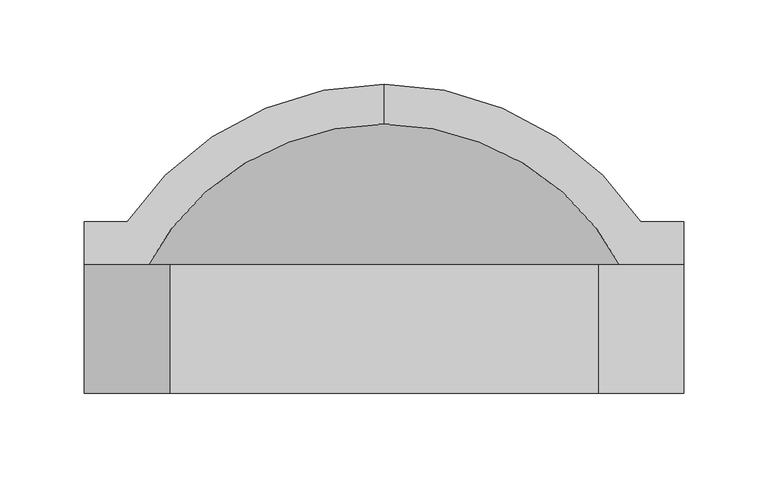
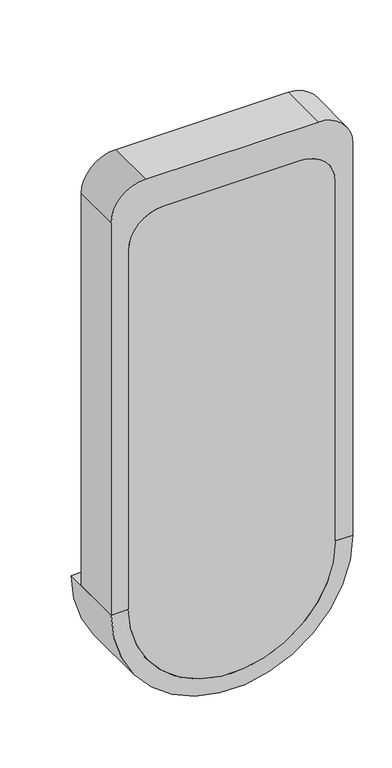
"""IFC4 building model written with IfcOpenShell, lengths in millimetres: flow terminal geometry, 小便斗 (2)-含牆 : 小便斗 (2)-含牆."""

from ifc_helpers import new_model, si_unit, point, frame, frame_2d, origin, place, context, project, spatial, polyline, circle_curve, ellipse_curve, trimmed, segment, composite_curve, outline, extrude, source, transform, mapped, element, save
from ifc_brep_helpers import plane_surface, cylinder_surface, revolved_surface, advanced_brep


def flow_terminal_5bd4dfce(model_context):
    return source(origin(), model_context, "Body", "SolidModel", [
        extrude(outline(composite_curve([segment(polyline([(610.0, 43.3254001), (610.0, 68.7254001), (1219.6, 68.7254001)]), True, "CONTINUOUS"), segment(trimmed(circle_curve(frame_2d((1219.6, 17.9254001)), 50.8), [point((1219.6, 68.7254001))], [point((1270.4, 17.9254001))], False, "CARTESIAN"), True, "CONTINUOUS"), segment(polyline([(1270.4, 17.9254001), (1270.4, -236.0745999)]), True, "CONTINUOUS"), segment(trimmed(circle_curve(frame_2d((1219.6, -236.0745999)), 50.8), [point((1270.4, -236.0745999))], [point((1219.6, -286.8745999))], False, "CARTESIAN"), True, "CONTINUOUS"), segment(polyline([(1219.6, -286.8745999), (610.0, -286.8745999), (610.0, -261.4745999), (1168.8, -261.4745999)]), True, "CONTINUOUS"), segment(trimmed(circle_curve(frame_2d((1168.8, -210.6745999)), 50.8), [point((1168.8, -261.4745999))], [point((1219.6, -210.6745999))], True, "CARTESIAN"), True, "CONTINUOUS"), segment(polyline([(1219.6, -210.6745999), (1219.6, -7.4745999)]), True, "CONTINUOUS"), segment(trimmed(circle_curve(frame_2d((1168.8, -7.4745999)), 50.8), [point((1219.6, -7.4745999))], [point((1168.8, 43.3254001))], True, "CARTESIAN"), True, "CONTINUOUS"), segment(polyline([(1168.8, 43.3254001), (610.0, 43.3254001)]), True, "CONTINUOUS")], self_intersect=False)), frame((0.0, 60.0, 0.0), z_axis=(0.0, 1.0, 0.0), x_axis=(0.0, 0.0, 1.0)), (0.0, 0.0, 1.0), 76.2),
        extrude(outline(composite_curve([segment(trimmed(circle_curve(frame_2d((1168.8, -7.4745999)), 50.8), [point((1168.8, 43.3254001))], [point((1219.6, -7.4745999))], False, "CARTESIAN"), True, "CONTINUOUS"), segment(polyline([(1219.6, -7.4745999), (1219.6, -210.6745999)]), True, "CONTINUOUS"), segment(trimmed(circle_curve(frame_2d((1168.8, -210.6745999)), 50.8), [point((1219.6, -210.6745999))], [point((1168.8, -261.4745999))], False, "CARTESIAN"), True, "CONTINUOUS"), segment(polyline([(1168.8, -261.4745999), (610.0, -261.4745999)]), True, "CONTINUOUS"), segment(trimmed(circle_curve(frame_2d((610.0, -109.0745999)), 152.4), [point((610.0, -261.4745999))], [point((610.0, 43.3254001))], False, "CARTESIAN"), True, "CONTINUOUS"), segment(polyline([(610.0, 43.3254001), (1168.8, 43.3254001)]), True, "CONTINUOUS")], self_intersect=False)), frame((0.0, 60.0, 0.0), z_axis=(0.0, 1.0, 0.0), x_axis=(0.0, 0.0, 1.0)), (0.0, 0.0, 1.0), 12.7),
        advanced_brep(
        [(-109.0745999, 243.1620048, 610.0), (-109.0745999, 219.4447043, 610.0), (43.3254001, 106.8706063, 610.0), (43.3254001, 60.0, 610.0), (68.7254001, 60.0, 610.0), (68.7254001, 161.6, 610.0), (43.3254001, 161.6, 610.0), (-261.4745999, 161.6, 610.0), (-286.8745999, 161.6, 610.0), (-286.8745999, 60.0, 610.0), (-261.4745999, 60.0, 610.0), (-261.4745999, 106.8706063, 610.0)],
        [
            (0, 1),
            (1, 2, circle_curve(frame((-109.0745999, 60.0, 610.0), z_axis=(0.0, 0.0, -1.0), x_axis=(1.0, 0.0, 0.0)), 159.4447043)),
            (2, 3),
            (3, 4),
            (4, 5),
            (5, 6),
            (6, 0, circle_curve(frame((-109.0745999, 60.0, 610.0), z_axis=(0.0, 0.0, 1.0), x_axis=(1.0, 0.0, 0.0)), 183.1620048)),
            (0, 7, circle_curve(frame((-109.0745999, 60.0, 610.0), z_axis=(0.0, 0.0, 1.0), x_axis=(-1.0, 0.0, 0.0)), 183.1620048)),
            (7, 8),
            (8, 9),
            (9, 10),
            (10, 11),
            (11, 1, circle_curve(frame((-109.0745999, 60.0, 610.0), z_axis=(0.0, 0.0, -1.0), x_axis=(-1.0, 0.0, 0.0)), 159.4447043)),
            (11, 2, circle_curve(frame((-109.0745999, 106.8706063, 610.0), z_axis=(0.0, -1.0, 0.0), x_axis=(1.0, 0.0, 0.0)), 152.4)),
            (10, 3, circle_curve(frame((-109.0745999, 60.0, 610.0), z_axis=(0.0, -1.0, 0.0), x_axis=(1.0, 0.0, 0.0)), 152.4)),
            (9, 4, circle_curve(frame((-109.0745999, 60.0, 610.0), z_axis=(0.0, -1.0, 0.0), x_axis=(1.0, 0.0, 0.0)), 177.8)),
            (8, 5, circle_curve(frame((-109.0745999, 161.6, 610.0), z_axis=(0.0, -1.0, 0.0), x_axis=(1.0, 0.0, 0.0)), 177.8)),
            (7, 6, circle_curve(frame((-109.0745999, 161.6, 610.0), z_axis=(0.0, -1.0, 0.0), x_axis=(1.0, 0.0, 0.0)), 152.4)),
        ],
        [
            plane_surface(frame((-109.0745999, 349.2104173, 610.0), z_axis=(0.0, 0.0, 1.0), x_axis=(1.0, 0.0, 0.0))),
            plane_surface(frame((-109.0745999, 349.2104173, 610.0), z_axis=(0.0, 0.0, 1.0), x_axis=(-1.0, 0.0, 0.0))),
            revolved_surface(trimmed(ellipse_curve(frame((-109.0745999, 60.0, 610.0), z_axis=(0.0, 0.0, -1.0), x_axis=(1.0, 0.0, 0.0)), 159.4447043, 159.4447043), [point((-109.0745999, 219.4447043, 610.0))], [point((43.3254001, 106.8706063, 610.0))], True, "CARTESIAN"), (-109.0745999, 349.2104173, 610.0), (0.0, 1.0, 0.0)),
            revolved_surface(polyline([(43.32540010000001, 106.87060630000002, 610.0), (43.32540010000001, 60.0, 610.0)]), (-109.0745999, 349.2104173, 610.0), (0.0, 1.0, 0.0)),
            plane_surface(frame((-109.0745999, 60.0, 610.0), z_axis=(0.0, -1.0, 0.0), x_axis=(1.0, 0.0, 0.0))),
            cylinder_surface(frame((-109.0745999, 349.2104173, 610.0), z_axis=(0.0, 1.0, 0.0), x_axis=(1.0, 0.0, 0.0)), 177.8),
            plane_surface(frame((-109.0745999, 161.6, 610.0), z_axis=(0.0, 1.0, 0.0), x_axis=(1.0, 0.0, 0.0))),
            revolved_surface(trimmed(ellipse_curve(frame((-109.0745999, 60.0, 610.0), z_axis=(0.0, 0.0, 1.0), x_axis=(1.0, 0.0, 0.0)), 183.1620048, 183.1620048), [point((43.3254001, 161.6, 610.0))], [point((-109.0745999, 243.1620048, 610.0))], True, "CARTESIAN"), (-109.0745999, 349.2104173, 610.0), (0.0, 1.0, 0.0)),
        ],
        [
            (0, [[1, 2, 3, 4, 5, 6, 7]]),
            (1, [[8, 9, 10, 11, 12, 13, -1]]),
            (2, [[14, -2, -13]]),
            (3, [[15, -3, -14, -12]]),
            (4, [[16, -4, -15, -11]]),
            (5, [[17, -5, -16, -10]]),
            (6, [[18, -6, -17, -9]]),
            (7, [[-7, -18, -8]]),
        ],
    ),
    ])


if __name__ == "__main__":
    model = new_model("IFC4")
    model_context = context("Model", 3, world=origin())
    ifc_project = project(units=[si_unit("LENGTHUNIT", "METRE", prefix="MILLI")], contexts=[model_context])
    site = spatial("IfcSite", under=ifc_project)
    building = spatial("IfcBuilding", under=site)
    placement = place(None, origin())
    flow_terminal_shape = flow_terminal_5bd4dfce(model_context)
    element("IfcFlowTerminal", 1, ObjectType="小便斗 (2)-含牆 : 小便斗 (2)-含牆", at=placement, inside=building, context=model_context, shape_type="MappedRepresentation", body=[
        mapped(flow_terminal_shape, transform((0.0, 0.0, 0.0), x_axis=(1.0, 0.0, 0.0), y_axis=(0.0, 1.0, 0.0), z_axis=(0.0, 0.0, 1.0))),
    ])
    save(model, "model.ifc")
